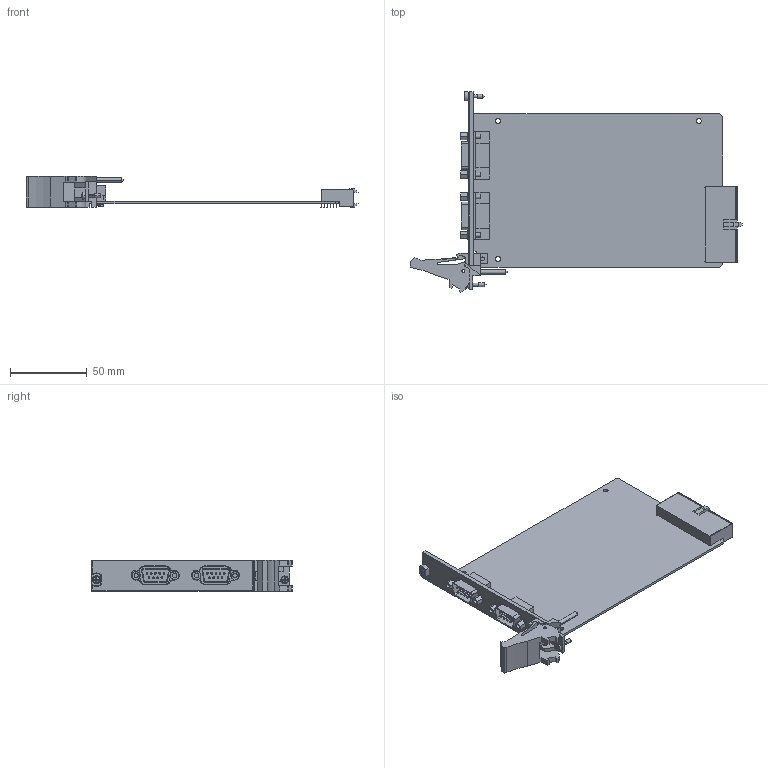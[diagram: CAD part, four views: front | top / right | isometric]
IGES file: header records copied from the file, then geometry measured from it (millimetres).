
Start section:  PTC IGES file: cu_pxi-8431_2.igs
Global section: file name: cu_pxi-8431_2.igs; native system: Pro/ENGINEER by Parametric Technology Corporation; preprocessor: 2011490; author: gvillanu; organization: Unknown; date: 20130910.123515; units: inch
Bounding box: 216.08 x 130.51 x 20.19 mm (x, y, z)
Surface area: 55665 mm2 (no closed solid volume)
Topology: 0 solids, 0 shells, 551 faces, 2902 edges, 2897 vertices
Faces by surface type: bspline 337, revolution 214
